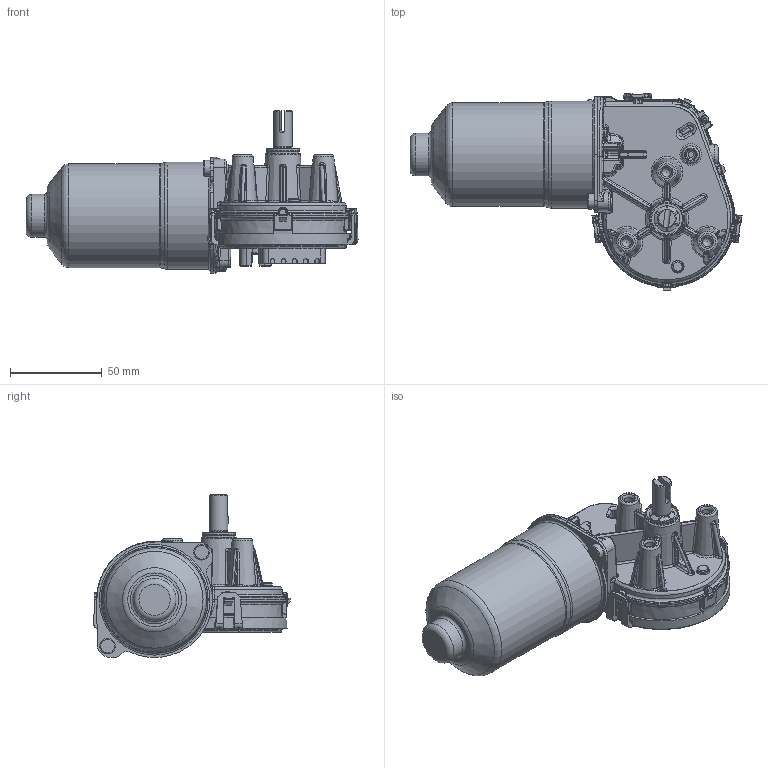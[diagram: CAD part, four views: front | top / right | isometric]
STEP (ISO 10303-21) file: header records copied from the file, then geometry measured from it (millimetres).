
FILE_DESCRIPTION(/* description */ (''),/* implementation_level */ '2;1');
FILE_NAME(/* name */ '039024320K.001-Wiper Motor.stp',/* time_stamp */ '2022-12-16T14:14:53-03:00',/* author */ (''),/* organization */ (''),/* preprocessor_version */ 'ST-DEVELOPER v18.102',/* originating_system */ 'SIEMENS PLM Software NX2206.5001',/* authorisation */ '');
FILE_SCHEMA (('AUTOMOTIVE_DESIGN { 1 0 10303 214 3 1 1 1 }'));
Length unit declared in the file: millimetre
Products named in the file (1): 001_objects
Bounding box: 180.9 x 107.03 x 88.7 mm (x, y, z)
Volume: 25703.8 mm3; surface area: 70937.4 mm2
Topology: 5 solids, 22 shells, 2545 faces, 6895 edges, 4172 vertices
Faces by surface type: plane 886, cylinder 704, bspline 498, torus 257, sphere 104, cone 91, extrusion 5
Full cylindrical faces by diameter (mm): 0.6 x3, 1.5 x1, 3 x2, 3.9 x2, 5.03 x1, 6 x1, 8.5 x2, 9.65 x1, 10 x1, 11 x1, 18 x2, 23.3 x1, 56.5 x1, 58.3 x1
Entity records: 109826 total; most frequent: CARTESIAN_POINT 45682, ORIENTED_EDGE 12517, DIRECTION 10601, EDGE_CURVE 6689, VERTEX_POINT 4134, AXIS2_PLACEMENT_3D 3805, VECTOR 2991, LINE 2986
